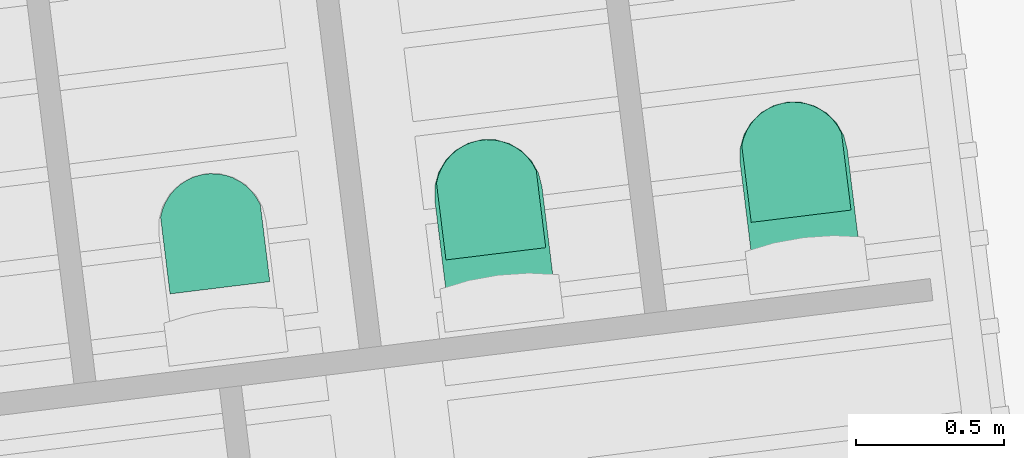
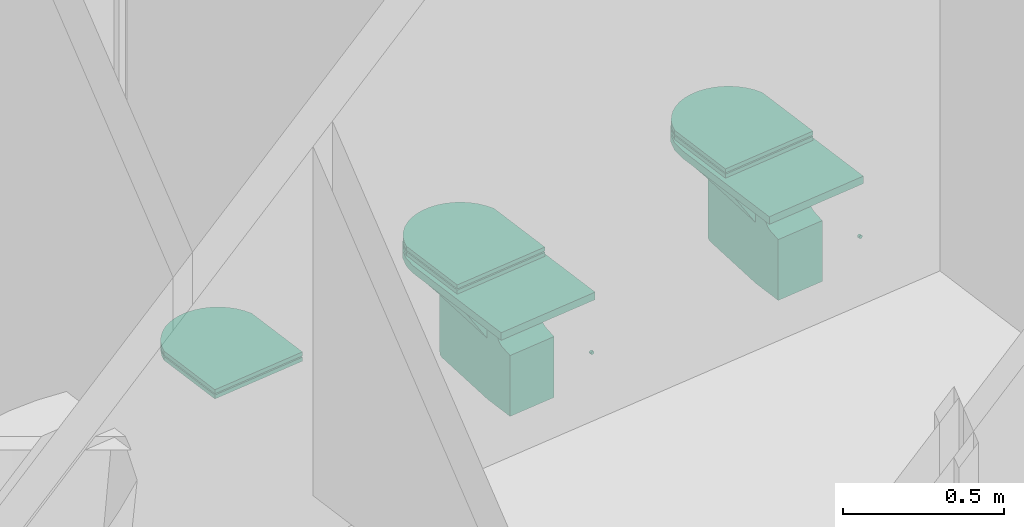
# One storey, part 54 of 75: 5 flow terminals.
"""IFC2X3 building model written with IfcOpenShell, lengths in metres."""

from ifc_helpers import new_model, entity, si_unit, converted_unit, derived_unit, direction, frame, frame_2d, origin, place, context, subcontext, project, spatial, polyline, circle_curve, parameter, trimmed, segment, composite_curve, outline, extrude, faceted_brep, source, transform, mapped, material, material_list, type_object, type_shapes, element, save


model = new_model("IFC2X3")

# Units and contexts
model_context = context("Model", 3, precision=1e-05, world=origin(), true_north=direction((6.123031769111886e-17, 1.0)))
body_context = subcontext(model_context, "Body", "Model", "MODEL_VIEW")
ifc_project = project(units=[si_unit("LENGTHUNIT", "METRE"), si_unit("AREAUNIT", "SQUARE_METRE"), si_unit("VOLUMEUNIT", "CUBIC_METRE"), converted_unit("PLANEANGLEUNIT", "DEGREE", entity("IfcRatioMeasure", 0.017453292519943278), si_unit("PLANEANGLEUNIT", "RADIAN"), dimensions=[0, 0, 0, 0, 0, 0, 0]), si_unit("MASSUNIT", "GRAM", prefix="KILO"), derived_unit("MASSDENSITYUNIT", [(si_unit("MASSUNIT", "GRAM", prefix="KILO"), 1), (si_unit("LENGTHUNIT", "METRE"), -3)]), derived_unit("IONCONCENTRATIONUNIT", [(si_unit("MASSUNIT", "GRAM", prefix="KILO"), 1), (si_unit("LENGTHUNIT", "METRE"), -3)]), derived_unit("MOMENTOFINERTIAUNIT", [(si_unit("LENGTHUNIT", "METRE"), 4)]), si_unit("TIMEUNIT", "SECOND"), si_unit("FREQUENCYUNIT", "HERTZ"), si_unit("THERMODYNAMICTEMPERATUREUNIT", "DEGREE_CELSIUS"), derived_unit("THERMALTRANSMITTANCEUNIT", [(si_unit("MASSUNIT", "GRAM", prefix="KILO"), 1), (si_unit("THERMODYNAMICTEMPERATUREUNIT", "KELVIN"), -1), (si_unit("TIMEUNIT", "SECOND"), -3)]), derived_unit("THERMALCONDUCTANCEUNIT", [(si_unit("MASSUNIT", "GRAM", prefix="KILO"), 1), (si_unit("THERMODYNAMICTEMPERATUREUNIT", "KELVIN"), -1), (si_unit("TIMEUNIT", "SECOND"), -3), (si_unit("LENGTHUNIT", "METRE"), 1)]), derived_unit("VOLUMETRICFLOWRATEUNIT", [(si_unit("LENGTHUNIT", "METRE"), 3), (si_unit("TIMEUNIT", "SECOND"), -1)]), derived_unit("MASSFLOWRATEUNIT", [(si_unit("MASSUNIT", "GRAM", prefix="KILO"), 1), (si_unit("TIMEUNIT", "SECOND"), -1)]), derived_unit("ROTATIONALFREQUENCYUNIT", [(si_unit("TIMEUNIT", "SECOND"), -1)]), si_unit("ELECTRICCURRENTUNIT", "AMPERE"), si_unit("ELECTRICVOLTAGEUNIT", "VOLT"), si_unit("POWERUNIT", "WATT"), si_unit("FORCEUNIT", "NEWTON", prefix="KILO"), si_unit("ILLUMINANCEUNIT", "LUX"), si_unit("LUMINOUSFLUXUNIT", "LUMEN"), si_unit("LUMINOUSINTENSITYUNIT", "CANDELA"), derived_unit("USERDEFINED", [(si_unit("MASSUNIT", "GRAM", prefix="KILO"), -1), (si_unit("LENGTHUNIT", "METRE"), -2), (si_unit("TIMEUNIT", "SECOND"), 3), (si_unit("LUMINOUSFLUXUNIT", "LUMEN"), 1)]), derived_unit("USERDEFINED", [(si_unit("MASSUNIT", "GRAM", prefix="KILO"), 1), (si_unit("TIMEUNIT", "SECOND"), -3), (si_unit("LENGTHUNIT", "METRE"), 3), (si_unit("ELECTRICCURRENTUNIT", "AMPERE"), -2)]), derived_unit("SOUNDPOWERUNIT", [(si_unit("MASSUNIT", "GRAM", prefix="KILO"), 1), (si_unit("TIMEUNIT", "SECOND"), -3), (si_unit("LENGTHUNIT", "METRE"), 2)]), derived_unit("SOUNDPRESSUREUNIT", [(si_unit("MASSUNIT", "GRAM", prefix="KILO"), 1), (si_unit("LENGTHUNIT", "METRE"), -1), (si_unit("TIMEUNIT", "SECOND"), -2)]), derived_unit("LINEARVELOCITYUNIT", [(si_unit("LENGTHUNIT", "METRE"), 1), (si_unit("TIMEUNIT", "SECOND"), -1)]), si_unit("PRESSUREUNIT", "PASCAL"), derived_unit("USERDEFINED", [(si_unit("MASSUNIT", "GRAM", prefix="KILO"), 1), (si_unit("LENGTHUNIT", "METRE"), -2), (si_unit("TIMEUNIT", "SECOND"), -2)]), derived_unit("LINEARFORCEUNIT", [(si_unit("MASSUNIT", "GRAM", prefix="KILO"), 1), (si_unit("TIMEUNIT", "SECOND"), -2)]), derived_unit("PLANARFORCEUNIT", [(si_unit("MASSUNIT", "GRAM", prefix="KILO"), 1), (si_unit("LENGTHUNIT", "METRE"), -1), (si_unit("TIMEUNIT", "SECOND"), -2)]), derived_unit("SPECIFICHEATCAPACITYUNIT", [(si_unit("THERMODYNAMICTEMPERATUREUNIT", "KELVIN"), -1), (si_unit("LENGTHUNIT", "METRE"), 2), (si_unit("TIMEUNIT", "SECOND"), -2)]), derived_unit("HEATINGVALUEUNIT", [(si_unit("LENGTHUNIT", "METRE"), 2), (si_unit("TIMEUNIT", "SECOND"), -2)]), derived_unit("VAPORPERMEABILITYUNIT", [(si_unit("LENGTHUNIT", "METRE"), -1), (si_unit("TIMEUNIT", "SECOND"), 1)]), derived_unit("DYNAMICVISCOSITYUNIT", [(si_unit("MASSUNIT", "GRAM", prefix="KILO"), 1), (si_unit("TIMEUNIT", "SECOND"), -1), (si_unit("LENGTHUNIT", "METRE"), -1)]), derived_unit("THERMALEXPANSIONCOEFFICIENTUNIT", [(si_unit("THERMODYNAMICTEMPERATUREUNIT", "KELVIN"), -1)]), derived_unit("MODULUSOFELASTICITYUNIT", [(si_unit("MASSUNIT", "GRAM", prefix="KILO"), 1), (si_unit("LENGTHUNIT", "METRE"), -1), (si_unit("TIMEUNIT", "SECOND"), -2)]), derived_unit("ISOTHERMALMOISTURECAPACITYUNIT", [(si_unit("LENGTHUNIT", "METRE"), 3), (si_unit("MASSUNIT", "GRAM", prefix="KILO"), -1)]), derived_unit("MOISTUREDIFFUSIVITYUNIT", [(si_unit("TIMEUNIT", "SECOND"), -1), (si_unit("LENGTHUNIT", "METRE"), 2)])], contexts=[model_context])

# Site, building, storey
site_placement = place(None, origin())
site = spatial("IfcSite", under=ifc_project, at=site_placement, Name="Default", CompositionType="ELEMENT")
building_placement = place(site_placement, origin())
building = spatial("IfcBuilding", under=site, at=building_placement, Name="Projeto", CompositionType="ELEMENT")
storey_placement = place(building_placement, origin())
storey = spatial("IfcBuildingStorey", under=building, at=storey_placement, Name="Nível 1", CompositionType="ELEMENT", Elevation=0.0)

# Flow terminals
ifc_material_1 = material(Name="<Unnamed>")
ifc_material_2 = material(Name="Deca GE17 Branco Gelo Cerâmica")
ifc_material_list = material_list([ifc_material_1, ifc_material_2])
distribution_element_type_1 = type_object("IfcDistributionElementType", Name="Deca_Bacia Duna_P.707_Caixa Acoplada:Dual Flux 3 lpf / 6 lpf - Branco GE17", material=ifc_material_list)
shared_shape_1 = source(origin(), body_context, "Body", "Brep", [
    faceted_brep([(-0.013030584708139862, 0.005348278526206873, 0.25170370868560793), (-0.025089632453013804, 0.0053482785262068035, 0.2566987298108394), (-0.03544497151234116, 0.005348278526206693, 0.26464466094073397), (-0.04339090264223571, 0.00534827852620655, 0.27500000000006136), (-0.04838592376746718, 0.005348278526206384, 0.2870590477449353), (-0.05008963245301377, 0.005348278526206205, 0.30000000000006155), (-0.048385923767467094, 0.0053482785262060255, 0.31294095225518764), (-0.04339090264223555, 0.005348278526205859, 0.3250000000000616), (-0.03544497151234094, 0.005348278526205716, 0.3353553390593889), (-0.025089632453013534, 0.005348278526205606, 0.34330127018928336), (-0.013030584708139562, 0.005348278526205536, 0.3482962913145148), (-8.96324530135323e-05, 0.005348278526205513, 0.3500000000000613), (0.01285131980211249, 0.005348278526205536, 0.3482962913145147), (0.02491036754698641, 0.005348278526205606, 0.34330127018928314), (0.03526570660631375, 0.005348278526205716, 0.3353553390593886), (0.04321163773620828, 0.005348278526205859, 0.32500000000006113), (0.048206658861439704, 0.0053482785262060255, 0.31294095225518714), (0.049910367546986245, 0.005348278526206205, 0.30000000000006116), (0.048206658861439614, 0.005348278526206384, 0.2870590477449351), (0.04321163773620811, 0.00534827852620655, 0.2750000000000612), (0.03526570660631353, 0.005348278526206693, 0.26464466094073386), (0.024910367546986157, 0.0053482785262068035, 0.2566987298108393), (0.012851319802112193, 0.005348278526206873, 0.2517037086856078), (-8.963245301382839e-05, 0.005348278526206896, 0.2500000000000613), (-0.04339090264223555, 0.0, 0.32500000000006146), (-0.048385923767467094, 0.0, 0.31294095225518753), (-0.05008963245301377, 0.0, 0.3000000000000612), (-0.04838592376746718, 0.0, 0.2870590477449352), (-0.04339090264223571, 0.0, 0.27500000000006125), (-0.03544497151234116, 0.0, 0.2646446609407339), (-0.025089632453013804, 0.0, 0.25669872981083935), (-0.013030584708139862, 0.0, 0.2517037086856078), (-8.963245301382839e-05, 0.0, 0.25000000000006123), (0.012851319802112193, 0.0, 0.25170370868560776), (0.024910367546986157, 0.0, 0.25669872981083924), (0.03526570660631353, 0.0, 0.2646446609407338), (0.04321163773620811, 0.0, 0.27500000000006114), (0.048206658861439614, 0.0, 0.28705904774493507), (0.049910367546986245, 0.0, 0.30000000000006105), (0.048206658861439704, 0.0, 0.3129409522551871), (0.04321163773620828, 0.0, 0.3250000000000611), (0.03526570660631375, 0.0, 0.33535533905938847), (0.02491036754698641, 0.0, 0.343301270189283), (0.01285131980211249, 0.0, 0.3482962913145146), (-8.96324530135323e-05, 0.0, 0.35000000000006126), (-0.013030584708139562, 0.0, 0.3482962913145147), (-0.025089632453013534, 0.0, 0.3433012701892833), (-0.03544497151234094, 0.0, 0.33535533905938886)], [[[0, 1, 2, 3, 4, 5, 6, 7, 8, 9, 10, 11, 12, 13, 14, 15, 16, 17, 18, 19, 20, 21, 22, 23]], [[24, 25, 26, 27, 28, 29, 30, 31, 32, 33, 34, 35, 36, 37, 38, 39, 40, 41, 42, 43, 44, 45, 46, 47]], [[16, 39, 38, 17]], [[15, 40, 39, 16]], [[42, 41, 14, 13]], [[15, 14, 41, 40]], [[43, 42, 13, 12]], [[44, 43, 12, 11]], [[10, 45, 44, 11]], [[9, 46, 45, 10]], [[24, 47, 8, 7]], [[9, 8, 47, 46]], [[25, 24, 7, 6]], [[26, 25, 6, 5]], [[4, 27, 26, 5]], [[3, 28, 27, 4]], [[30, 29, 2, 1]], [[3, 2, 29, 28]], [[31, 30, 1, 0]], [[32, 31, 0, 23]], [[22, 33, 32, 23]], [[21, 34, 33, 22]], [[36, 35, 20, 19]], [[21, 20, 35, 34]], [[37, 36, 19, 18]], [[38, 37, 18, 17]]]),
    faceted_brep([(0.003594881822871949, 0.3715076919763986, 0.2169121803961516), (-0.18010254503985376, 0.37150769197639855, 0.21691218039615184), (-0.18010254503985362, 0.3715076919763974, 0.30223566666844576), (-0.18010254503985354, 0.37150769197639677, 0.34441218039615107), (-0.18010254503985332, 0.371507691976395, 0.47191218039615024), (-0.17398801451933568, 0.3715076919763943, 0.5183566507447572), (-0.15606111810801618, 0.3715076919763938, 0.5616360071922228), (-0.12754354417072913, 0.3715076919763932, 0.5988008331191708), (-0.09037871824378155, 0.3715076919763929, 0.6273184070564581), (-0.047099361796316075, 0.37150769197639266, 0.6452453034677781), (-0.0006548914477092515, 0.37150769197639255, 0.6513598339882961), (0.0457895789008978, 0.3715076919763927, 0.6452453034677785), (0.08906893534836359, 0.3715076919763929, 0.627318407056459), (0.12623376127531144, 0.37150769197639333, 0.598800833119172), (0.15475133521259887, 0.37150769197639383, 0.5616360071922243), (0.17267823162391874, 0.37150769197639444, 0.5183566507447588), (0.1787927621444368, 0.37150769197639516, 0.4719121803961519), (0.17879276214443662, 0.3715076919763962, 0.38535083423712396), (0.17879276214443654, 0.3715076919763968, 0.34441218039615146), (0.17879276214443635, 0.37150769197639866, 0.216912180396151), (0.003594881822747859, 0.2301144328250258, 0.21691218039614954), (0.08879276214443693, 0.23011443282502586, 0.2169121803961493), (0.08135757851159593, 0.23011443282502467, 0.3018967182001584), (0.07349704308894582, 0.23011443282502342, 0.39174304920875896), (0.06563650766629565, 0.2301144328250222, 0.4815893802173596), (0.060879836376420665, 0.23011443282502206, 0.4929443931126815), (0.05612316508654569, 0.23011443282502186, 0.5042994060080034), (0.04739476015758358, 0.23011443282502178, 0.5129814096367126), (0.03866635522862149, 0.23011443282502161, 0.5216634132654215), (0.02728614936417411, 0.2301144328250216, 0.5263594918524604), (0.015905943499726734, 0.23011443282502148, 0.5310555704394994), (0.0035948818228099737, 0.23011443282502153, 0.5310555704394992), (-0.008716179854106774, 0.23011443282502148, 0.5310555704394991), (-0.020096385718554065, 0.2301144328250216, 0.5263594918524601), (-0.03147659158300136, 0.2301144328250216, 0.521663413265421), (-0.0402049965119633, 0.23011443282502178, 0.5129814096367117), (-0.048933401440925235, 0.23011443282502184, 0.5042994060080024), (-0.053690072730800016, 0.23011443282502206, 0.49294439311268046), (-0.05844674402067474, 0.23011443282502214, 0.48158938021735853), (-0.06610674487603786, 0.2301144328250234, 0.3940351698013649), (-0.07385487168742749, 0.23011443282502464, 0.3054736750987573), (-0.08160299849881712, 0.23011443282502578, 0.21691218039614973), (0.12339332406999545, 0.29423178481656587, 0.3446660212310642), (0.14378467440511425, 0.31650871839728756, 0.21691218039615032), (0.1189286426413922, 0.2927387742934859, 0.41323129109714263), (0.13477738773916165, 0.31650872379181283, 0.4756764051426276), (0.1222146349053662, 0.30081106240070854, 0.4767507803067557), (-0.12004904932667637, 0.2944006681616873, 0.3475461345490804), (-0.13171801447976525, 0.31527324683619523, 0.4757609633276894), (-0.1214550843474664, 0.29186369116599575, 0.28010337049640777), (-0.11927464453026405, 0.30081106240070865, 0.47675078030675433), (-0.1409276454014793, 0.31527325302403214, 0.216912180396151), (-0.10880249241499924, 0.29823220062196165, 0.5148337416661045), (-0.0951565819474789, 0.29586402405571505, 0.5362892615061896), (0.09839395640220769, 0.29586402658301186, 0.536289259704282), (0.11189751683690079, 0.29823221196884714, 0.5148337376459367), (0.015909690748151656, 0.30276951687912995, 0.5926011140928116), (-0.010981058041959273, 0.29984585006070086, 0.5903491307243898), (-0.05869502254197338, 0.295864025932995, 0.5708816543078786), (-0.036335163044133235, 0.2977191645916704, 0.5829795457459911), (-0.08011624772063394, 0.29640373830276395, 0.554957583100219), (0.08332117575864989, 0.2964037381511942, 0.5549575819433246), (0.04001913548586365, 0.2978798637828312, 0.5829307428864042), (0.0619323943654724, 0.2958640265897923, 0.5708816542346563)], [[[0, 1, 2, 3, 4, 5, 6, 7, 8, 9, 10, 11, 12, 13, 14, 15, 16, 17, 18, 19]], [[20, 21, 22, 23, 24, 25, 26, 27, 28, 29, 30, 31, 32, 33, 34, 35, 36, 37, 38, 39, 40, 41]], [[42, 43, 18]], [[24, 23, 44]], [[22, 21, 43]], [[19, 18, 43]], [[23, 42, 44]], [[17, 45, 44]], [[22, 42, 23]], [[43, 42, 22]], [[18, 17, 42]], [[45, 17, 16]], [[17, 44, 42]], [[44, 45, 46, 24]], [[47, 48, 3]], [[41, 40, 49]], [[39, 38, 50, 48]], [[4, 3, 48]], [[40, 47, 49]], [[2, 51, 49]], [[39, 47, 40]], [[48, 47, 39]], [[3, 2, 47]], [[51, 2, 1]], [[2, 49, 47]], [[41, 49, 51]], [[0, 19, 43, 21, 20, 41, 51, 1]], [[37, 52, 50]], [[52, 36, 53]], [[35, 53, 36]], [[26, 54, 27]], [[25, 46, 55]], [[52, 53, 6]], [[31, 56, 57]], [[58, 59, 8]], [[7, 53, 60]], [[53, 35, 60]], [[53, 7, 6]], [[7, 60, 58]], [[37, 36, 52]], [[52, 6, 5]], [[58, 34, 33]], [[35, 34, 60]], [[9, 59, 57]], [[5, 50, 52]], [[10, 57, 56]], [[9, 57, 10]], [[61, 54, 13]], [[32, 59, 33]], [[58, 60, 34]], [[57, 32, 31]], [[8, 59, 9]], [[55, 15, 14]], [[30, 29, 62]], [[63, 61, 13]], [[55, 26, 25]], [[13, 54, 14]], [[61, 27, 54]], [[14, 54, 55]], [[15, 46, 45, 16]], [[63, 13, 12]], [[55, 46, 15]], [[24, 46, 25]], [[28, 27, 61]], [[54, 26, 55]], [[56, 31, 30]], [[59, 32, 57]], [[11, 56, 62]], [[11, 10, 56]], [[63, 29, 28]], [[29, 63, 62]], [[59, 58, 33]], [[58, 8, 7]], [[61, 63, 28]], [[62, 12, 11]], [[62, 63, 12]], [[30, 62, 56]], [[5, 4, 48, 50]], [[38, 37, 50]]]),
    faceted_brep([(0.003125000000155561, 0.0, 0.2169121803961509), (0.08840864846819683, 0.0, 0.21691218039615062), (0.06516662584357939, 0.0, 0.48256971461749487), (0.05988022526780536, 0.0, 0.49717859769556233), (0.0512118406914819, 0.0, 0.510071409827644), (0.03967801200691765, 0.0, 0.5204798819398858), (0.025966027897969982, 0.0, 0.5277837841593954), (0.010892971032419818, 0.0, 0.5315478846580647), (-0.0046429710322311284, 0.0, 0.5315478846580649), (-0.019716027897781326, 0.0, 0.5277837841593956), (-0.03342801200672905, 0.0, 0.5204798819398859), (-0.04496184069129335, 0.0, 0.5100714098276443), (-0.053630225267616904, 0.0, 0.4971785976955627), (-0.05891662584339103, 0.0, 0.48256971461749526), (-0.08215864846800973, 0.0, 0.21691218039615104), (-0.0046429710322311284, 0.23011443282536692, 0.5315478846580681), (0.010892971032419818, 0.23011443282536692, 0.531547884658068), (0.025966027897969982, 0.23011443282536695, 0.5277837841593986), (0.03967801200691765, 0.23011443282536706, 0.5204798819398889), (0.0512118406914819, 0.23011443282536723, 0.5100714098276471), (0.05988022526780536, 0.2301144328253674, 0.49717859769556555), (0.06516662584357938, 0.2301144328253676, 0.48256971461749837), (0.08840864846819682, 0.23011443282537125, 0.21691218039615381), (0.003125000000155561, 0.23011443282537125, 0.2169121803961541), (-0.08215864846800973, 0.23011443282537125, 0.21691218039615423), (-0.05891662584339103, 0.2301144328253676, 0.48256971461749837), (-0.053630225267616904, 0.2301144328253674, 0.4971785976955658), (-0.04496184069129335, 0.23011443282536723, 0.5100714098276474), (-0.03342801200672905, 0.23011443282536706, 0.520479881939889), (-0.019716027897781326, 0.23011443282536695, 0.5277837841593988)], [[[0, 1, 2, 3, 4, 5, 6, 7, 8, 9, 10, 11, 12, 13, 14]], [[15, 16, 17, 18, 19, 20, 21, 22, 23, 24, 25, 26, 27, 28, 29]], [[2, 1, 22, 21]], [[14, 13, 25, 24]], [[0, 14, 24, 23, 22, 1]], [[3, 20, 19, 4]], [[21, 20, 3, 2]], [[5, 18, 17, 6]], [[19, 18, 5, 4]], [[6, 17, 16, 7]], [[16, 15, 8, 7]], [[8, 15, 29, 9]], [[28, 10, 9, 29]], [[11, 27, 26, 12]], [[28, 27, 11, 10]], [[12, 26, 25, 13]]]),
    faceted_brep([(-0.1455098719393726, 0.20449012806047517, -0.00923038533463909), (-0.14450073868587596, 0.20317499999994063, -0.00923038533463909), (-0.1438663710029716, 0.20164350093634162, -0.00923038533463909), (-0.14364999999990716, 0.1999999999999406, -0.00923038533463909), (-0.1438663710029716, 0.19835649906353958, -0.00923038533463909), (-0.14450073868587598, 0.1968249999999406, -0.00923038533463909), (-0.1455098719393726, 0.19550987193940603, -0.00923038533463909), (-0.1468249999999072, 0.19450073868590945, -0.00923038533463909), (-0.14835649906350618, 0.19386637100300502, -0.00923038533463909), (-0.14999999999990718, 0.19364999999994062, -0.00923038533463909), (-0.15164350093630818, 0.19386637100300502, -0.00923038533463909), (-0.1531749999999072, 0.19450073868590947, -0.00923038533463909), (-0.15449012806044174, 0.19550987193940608, -0.00923038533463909), (-0.15549926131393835, 0.19682499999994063, -0.00923038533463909), (-0.15613362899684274, 0.19835649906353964, -0.00923038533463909), (-0.15634999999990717, 0.19999999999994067, -0.00923038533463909), (-0.15613362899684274, 0.20164350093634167, -0.00923038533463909), (-0.15549926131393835, 0.20317499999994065, -0.00923038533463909), (-0.1544901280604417, 0.20449012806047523, -0.00923038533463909), (-0.15317499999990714, 0.2054992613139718, -0.00923038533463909), (-0.15164350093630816, 0.2061336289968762, -0.00923038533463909), (-0.14999999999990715, 0.20634999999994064, -0.00923038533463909), (-0.14835649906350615, 0.2061336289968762, -0.00923038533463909), (-0.14682499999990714, 0.2054992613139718, -0.00923038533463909), (-0.1468249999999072, 0.19450073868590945, 0.0), (-0.1455098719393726, 0.19550987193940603, 0.0), (-0.14450073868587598, 0.1968249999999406, 0.0), (-0.1438663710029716, 0.19835649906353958, 0.0), (-0.14364999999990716, 0.19999999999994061, 0.0), (-0.1438663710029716, 0.20164350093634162, 0.0), (-0.14450073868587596, 0.20317499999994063, 0.0), (-0.1455098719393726, 0.20449012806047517, 0.0), (-0.14682499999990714, 0.2054992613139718, 0.0), (-0.14835649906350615, 0.2061336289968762, 0.0), (-0.14999999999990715, 0.20634999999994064, 0.0), (-0.15164350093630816, 0.2061336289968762, 0.0), (-0.15317499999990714, 0.2054992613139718, 0.0), (-0.1544901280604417, 0.20449012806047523, 0.0), (-0.15549926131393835, 0.20317499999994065, 0.0), (-0.15613362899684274, 0.20164350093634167, 0.0), (-0.15634999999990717, 0.19999999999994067, 0.0), (-0.15613362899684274, 0.19835649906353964, 0.0), (-0.15549926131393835, 0.19682499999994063, 0.0), (-0.15449012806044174, 0.19550987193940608, 0.0), (-0.1531749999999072, 0.19450073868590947, 0.0), (-0.15164350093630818, 0.19386637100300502, 0.0), (-0.14999999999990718, 0.19364999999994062, 0.0), (-0.14835649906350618, 0.19386637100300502, 0.0)], [[[0, 1, 2, 3, 4, 5, 6, 7, 8, 9, 10, 11, 12, 13, 14, 15, 16, 17, 18, 19, 20, 21, 22, 23]], [[24, 25, 26, 27, 28, 29, 30, 31, 32, 33, 34, 35, 36, 37, 38, 39, 40, 41, 42, 43, 44, 45, 46, 47]], [[14, 41, 40, 15]], [[13, 42, 41, 14]], [[44, 43, 12, 11]], [[13, 12, 43, 42]], [[45, 44, 11, 10]], [[46, 45, 10, 9]], [[8, 47, 46, 9]], [[7, 24, 47, 8]], [[26, 25, 6, 5]], [[7, 6, 25, 24]], [[27, 26, 5, 4]], [[28, 27, 4, 3]], [[2, 29, 28, 3]], [[1, 30, 29, 2]], [[32, 31, 0, 23]], [[1, 0, 31, 30]], [[33, 32, 23, 22]], [[34, 33, 22, 21]], [[20, 35, 34, 21]], [[19, 36, 35, 20]], [[38, 37, 18, 17]], [[19, 18, 37, 36]], [[39, 38, 17, 16]], [[40, 39, 16, 15]]]),
    faceted_brep([(0.08859628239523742, 0.0, 0.09879143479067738), (0.08859628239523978, 0.23011443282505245, 0.09879143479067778), (0.0885962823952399, 0.2403078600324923, 0.13798298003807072), (0.08859628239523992, 0.2437334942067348, 0.14643480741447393), (0.08859628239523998, 0.24922587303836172, 0.15371506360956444), (0.08859628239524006, 0.25641226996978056, 0.15932969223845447), (0.08859628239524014, 0.2648049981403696, 0.162897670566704), (0.08859628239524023, 0.27383450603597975, 0.16417686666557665), (0.08859628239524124, 0.3715076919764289, 0.16417686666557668), (0.08859628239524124, 0.37150769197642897, 0.2169121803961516), (0.08859628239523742, 0.0, 0.21691218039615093), (-0.08234628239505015, 0.37150769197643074, 0.2169121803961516), (-0.08234628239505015, 0.3715076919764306, 0.16417686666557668), (-0.08234628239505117, 0.27383450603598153, 0.16417686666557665), (-0.08234628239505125, 0.26480499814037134, 0.162897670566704), (-0.08234628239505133, 0.25641226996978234, 0.15932969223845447), (-0.08234628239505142, 0.24922587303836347, 0.15371506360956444), (-0.08234628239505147, 0.24373349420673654, 0.14643480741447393), (-0.0823462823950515, 0.24030786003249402, 0.1379829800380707), (-0.08234628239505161, 0.2301144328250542, 0.09879143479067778), (-0.08234628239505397, 0.0, 0.09879143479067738), (-0.08234628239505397, 0.0, 0.21691218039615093)], [[[0, 1, 2, 3, 4, 5, 6, 7, 8, 9, 10]], [[11, 12, 13, 14, 15, 16, 17, 18, 19, 20, 21]], [[2, 1, 19, 18]], [[3, 2, 18, 17]], [[4, 3, 17, 16]], [[16, 15, 5, 4]], [[6, 5, 15, 14]], [[7, 6, 14, 13]], [[8, 7, 13, 12]], [[9, 8, 12, 11]], [[1, 0, 20, 19]], [[10, 9, 11, 21]], [[0, 10, 21, 20]]]),
    faceted_brep([(0.18249999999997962, 0.39999999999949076, 0.020115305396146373), (-0.18249999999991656, 0.39999999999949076, 0.020115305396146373), (-0.18249999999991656, 0.39999999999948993, 0.46886530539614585), (-0.1762814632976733, 0.3999999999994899, 0.5160997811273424), (-0.15804963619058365, 0.3999999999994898, 0.5601153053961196), (-0.12904698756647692, 0.3999999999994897, 0.5979122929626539), (-0.09124999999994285, 0.39999999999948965, 0.6269149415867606), (-0.047234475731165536, 0.39999999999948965, 0.6451467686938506), (0.0, 0.39999999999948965, 0.6513653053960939), (0.04723447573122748, 0.39999999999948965, 0.6451467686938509), (0.09125000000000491, 0.39999999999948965, 0.6269149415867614), (0.12904698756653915, 0.3999999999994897, 0.5979122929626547), (0.15804963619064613, 0.3999999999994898, 0.5601153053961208), (0.17628146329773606, 0.3999999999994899, 0.5160997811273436), (0.18249999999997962, 0.39999999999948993, 0.46886530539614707), (0.0, 0.371507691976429, 0.6513653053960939), (-0.047234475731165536, 0.371507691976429, 0.6451467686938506), (-0.09124999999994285, 0.371507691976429, 0.6269149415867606), (-0.12904698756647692, 0.37150769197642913, 0.5979122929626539), (-0.15804963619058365, 0.3715076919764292, 0.5601153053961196), (-0.1762814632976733, 0.37150769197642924, 0.5160997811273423), (-0.18249999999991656, 0.3715076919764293, 0.46886530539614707), (-0.18249999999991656, 0.37150769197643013, 0.020115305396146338), (0.18249999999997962, 0.37150769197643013, 0.020115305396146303), (0.18249999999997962, 0.3715076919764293, 0.46886530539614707), (0.17628146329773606, 0.37150769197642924, 0.5160997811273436), (0.15804963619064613, 0.3715076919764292, 0.5601153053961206), (0.12904698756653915, 0.37150769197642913, 0.5979122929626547), (0.09125000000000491, 0.371507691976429, 0.6269149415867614), (0.04723447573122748, 0.371507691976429, 0.6451467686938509)], [[[0, 1, 2, 3, 4, 5, 6, 7, 8, 9, 10, 11, 12, 13, 14]], [[15, 16, 17, 18, 19, 20, 21, 22, 23, 24, 25, 26, 27, 28, 29]], [[2, 1, 22, 21]], [[0, 14, 24, 23]], [[1, 0, 23, 22]], [[20, 3, 2, 21]], [[19, 4, 3, 20]], [[6, 5, 18, 17]], [[19, 18, 5, 4]], [[7, 6, 17, 16]], [[8, 7, 16, 15]], [[29, 9, 8, 15]], [[28, 10, 9, 29]], [[12, 11, 27, 26]], [[28, 27, 11, 10]], [[13, 12, 26, 25]], [[14, 13, 25, 24]]]),
])
type_shapes(distribution_element_type_1, [shared_shape_1])
for number, where, z_axis, x_axis, name in (
    (1, (-15.93374568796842, 29.045370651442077, -2.5749999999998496), (-0.12215242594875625, 0.9925113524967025, 0.0), (-0.9925113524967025, -0.12215242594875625, 0.0), "Deca_Bacia Duna_P.707_Caixa Acoplada:Dual Flux 3 lpf / 6 lpf - Branco GE17"),
    (2, (-14.901533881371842, 29.172409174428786, -2.5749999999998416), (-0.12215242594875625, 0.9925113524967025, 0.0), (-0.9925113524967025, -0.12215242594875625, 0.0), "Deca_Bacia Duna_P.707_Caixa Acoplada:Dual Flux 3 lpf / 6 lpf - Branco GE17"),
):
    element("IfcFlowTerminal", number, at=place(storey_placement, frame(where, z_axis=z_axis, x_axis=x_axis)), inside=storey, type_object=distribution_element_type_1, material=ifc_material_list, Name=name, ObjectType="Deca_Bacia Duna_P.707_Caixa Acoplada:Dual Flux 3 lpf / 6 lpf - Branco GE17", context=body_context, shape_type="MappedRepresentation", body=[
        mapped(shared_shape_1, transform((0.0, 0.0, 0.0), scale=1.0)),
    ])
ifc_material_3 = material(Name="Deca GE17 Branco Gelo Poliéster")
distribution_element_type_2 = type_object("IfcDistributionElementType", Name="Deca_Shared_Assento_P.707:Assento termofixo slow close e easy clean - Branco GE17", material=ifc_material_3)
shared_shape_2 = source(origin(), body_context, "Body", "SweptSolid", [
    extrude(outline(composite_curve([segment(polyline([(-0.1308785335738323, -0.16999999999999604), (0.13087853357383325, -0.16999999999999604)]), True, "CONTINUOUS"), segment(polyline([(0.13087853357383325, -0.16999999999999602), (0.13087853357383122, 0.1699999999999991)]), True, "CONTINUOUS"), segment(polyline([(0.13087853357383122, 0.1699999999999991), (-0.13087853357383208, 0.16999999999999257)]), True, "CONTINUOUS"), segment(trimmed(circle_curve(frame_2d((-0.07883300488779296, 0.0), x_axis=(0.0, -1.0)), 0.1777884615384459), [parameter(197.02197774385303)], [parameter(342.97802225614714)], True, "PARAMETER"), True, "CONTINUOUS")], self_intersect=False)), frame((0.0, 0.020000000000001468, 0.13087853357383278), z_axis=(0.0, 1.0, 0.0), x_axis=(0.0, 0.0, -1.0)), (0.0, 0.0, 1.0), 0.014999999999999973),
    extrude(outline(composite_curve([segment(trimmed(circle_curve(frame_2d((0.0, -0.07883300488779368), x_axis=(1.0, 0.0)), 0.1777884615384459), [parameter(197.02197774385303)], [parameter(342.9780222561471)], True, "PARAMETER"), True, "CONTINUOUS"), segment(polyline([(0.1699999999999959, -0.13087853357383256), (0.1699999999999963, 0.130878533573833)]), True, "CONTINUOUS"), segment(polyline([(0.16999999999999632, 0.13087853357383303), (-0.1699999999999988, 0.13087853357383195)]), True, "CONTINUOUS"), segment(polyline([(-0.16999999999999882, 0.13087853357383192), (-0.16999999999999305, -0.1308785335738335)]), True, "CONTINUOUS")], self_intersect=False)), frame((0.0, 0.0, 0.13087853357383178), z_axis=(0.0, 1.0, 0.0), x_axis=(1.0, 0.0, 0.0)), (0.0, 0.0, 1.0), 0.014999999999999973),
])
type_shapes(distribution_element_type_2, [shared_shape_2])
for number, where, z_axis, x_axis in (
    (3, (-15.965721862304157, 29.30591683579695, -2.170000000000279), (-0.12215242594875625, 0.9925113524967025, 0.0), (-0.9925113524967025, -0.12215242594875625, 0.0)),
    (4, (-16.89868253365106, 29.191093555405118, -2.1700000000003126), (-0.12215242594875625, 0.9925113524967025, 0.0), (-0.9925113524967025, -0.12215242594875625, 0.0)),
    (5, (-14.933510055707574, 29.43295535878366, -2.1700000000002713), (-0.12215242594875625, 0.9925113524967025, 0.0), (-0.9925113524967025, -0.12215242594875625, 0.0)),
):
    element("IfcFlowTerminal", number, at=place(storey_placement, frame(where, z_axis=z_axis, x_axis=x_axis)), inside=storey, type_object=distribution_element_type_2, material=ifc_material_3, Name="Deca_Shared_Assento_P.707:Assento termofixo slow close e easy clean - Branco GE17", ObjectType="Deca_Shared_Assento_P.707:Assento termofixo slow close e easy clean - Branco GE17", context=body_context, shape_type="MappedRepresentation", body=[
        mapped(shared_shape_2, transform((0.0, 0.0, 0.0), scale=1.0)),
    ])

save(model, "model.ifc")
